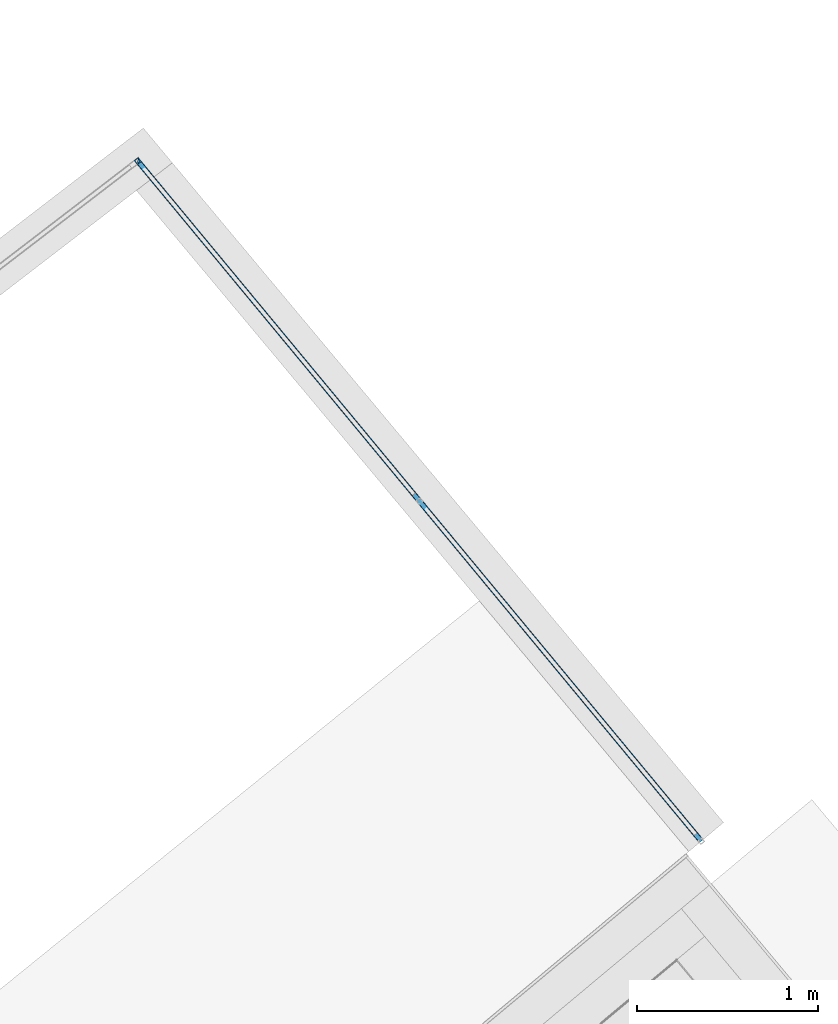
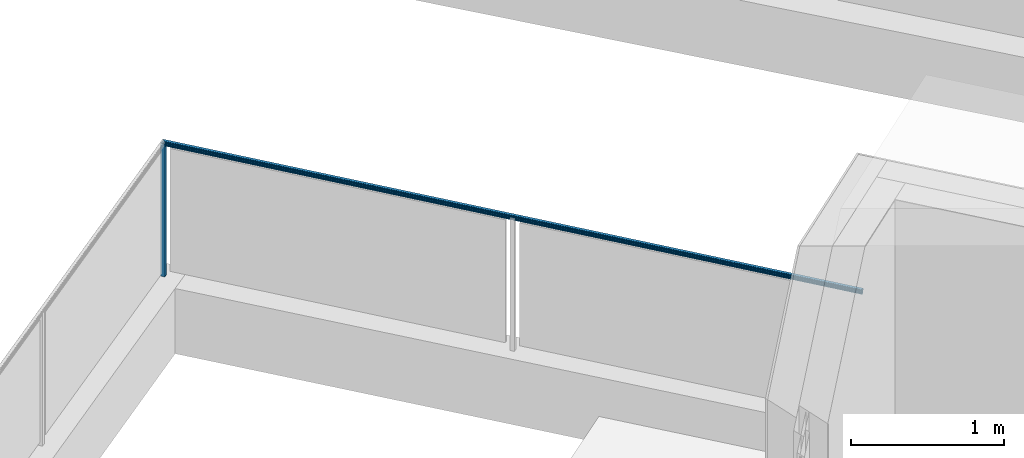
# One storey, part 52 of 67: 2 building element parts, 1 element without a shape of its own.
"""IFC4 building model written with IfcOpenShell, lengths in metres."""

import ifcopenshell
import ifcopenshell.guid

model = None  # the IFC model being written
_history = None  # IfcOwnerHistory: only IFC2X3 demands one
_inside = {}  # id of a spatial element -> (the spatial element, [elements in it])
_under = {}  # id of a project, library or spatial element -> (it, [spatial elements below it])
_declared = {}  # id of a project -> (the project, [libraries it declares])
_typed = {}  # id of a type object -> (the type object, [elements of that type])
_made_of = {}  # id of a material, layer set ... -> (it, [elements and type objects made of it])


def new_model(schema):
    """Start an empty IFC model of exactly this schema.

    Asked for "IFC4X3", IfcOpenShell would pick the latest addendum, in which some entities
    have other attributes; the version numbers below select the first issue.
    IFC2X3 requires an IfcOwnerHistory on every rooted entity: one is made here for all.
    """
    global model, _history
    if schema == "IFC4X3":
        model = ifcopenshell.file(schema_version=(4, 3, 0, 0))
    else:
        model = ifcopenshell.file(schema=schema)
    _inside.clear()
    _under.clear()
    _declared.clear()
    _typed.clear()
    _made_of.clear()
    _history = None
    if model.schema == "IFC2X3":
        org = make("IfcOrganization", Name="unknown")
        user = make(
            "IfcPersonAndOrganization",
            ThePerson=make("IfcPerson", FamilyName="unknown"),
            TheOrganization=org,
        )
        app = make(
            "IfcApplication",
            ApplicationDeveloper=org,
            Version="unknown",
            ApplicationFullName="unknown",
            ApplicationIdentifier="unknown",
        )
        _history = make(
            "IfcOwnerHistory",
            OwningUser=user,
            OwningApplication=app,
            ChangeAction="ADDED",
            CreationDate=0,
        )
    return model


def make(cls, **values):
    """One entity of the class cls with the attributes given. An attribute that is None is left unset."""
    return model.create_entity(
        cls, **{name: value for name, value in values.items() if value is not None}
    )


def entity(cls, *values):
    """Any entity or typed value of the class cls, its attributes in the order of the schema. None: left unset."""
    e = model.create_entity(cls)
    for i, value in enumerate(values):
        if value is not None:
            e[i] = value
    return e


def rooted(cls, **values):
    """An entity with a GlobalId (a new one), such as an element, a storey or a relation."""
    return make(cls, GlobalId=ifcopenshell.guid.new(), OwnerHistory=_history, **values)


def si_unit(unit_type, name, prefix=None):
    """IfcSIUnit, for example si_unit("LENGTHUNIT", "METRE", prefix="MILLI")."""
    return make("IfcSIUnit", UnitType=unit_type, Prefix=prefix, Name=name)


def converted_unit(unit_type, name, factor, base, dimensions=None, offset=None):
    """IfcConversionBasedUnit, such as the inch: factor (a typed value) times the base unit."""
    return make(
        "IfcConversionBasedUnit"
        if offset is None
        else "IfcConversionBasedUnitWithOffset",
        ConversionOffset=offset,
        Dimensions=None
        if dimensions is None
        else entity("IfcDimensionalExponents", *dimensions),
        UnitType=unit_type,
        Name=name,
        ConversionFactor=make(
            "IfcMeasureWithUnit", ValueComponent=factor, UnitComponent=base
        ),
    )


def derived_unit(unit_type, elements):
    """IfcDerivedUnit: a product of units, each with its exponent."""
    return make(
        "IfcDerivedUnit",
        Elements=[
            make("IfcDerivedUnitElement", Unit=unit, Exponent=power)
            for unit, power in elements
        ],
        UnitType=unit_type,
    )


def assignment(units):
    """IfcUnitAssignment: the units of a project."""
    return None if units is None else make("IfcUnitAssignment", Units=units)


def point(xyz):
    """IfcCartesianPoint."""
    return None if xyz is None else make("IfcCartesianPoint", Coordinates=xyz)


def direction(xyz):
    """IfcDirection."""
    return None if xyz is None else make("IfcDirection", DirectionRatios=xyz)


def frame(location, z_axis=None, x_axis=None):
    """IfcAxis2Placement3D, a coordinate frame: its origin and axes. An axis left out is left unset."""
    return make(
        "IfcAxis2Placement3D",
        Location=point(location),
        Axis=direction(z_axis),
        RefDirection=direction(x_axis),
    )


def origin_with_axes():
    """The frame at (0, 0, 0) with the z axis (0, 0, 1) and the x axis (1, 0, 0) written out."""
    return frame((0.0, 0.0, 0.0), z_axis=(0.0, 0.0, 1.0), x_axis=(1.0, 0.0, 0.0))


def place(relative_to, where):
    """IfcLocalPlacement: puts the frame where relative to a parent placement (None: the world)."""
    return make(
        "IfcLocalPlacement", PlacementRelTo=relative_to, RelativePlacement=where
    )


def context(
    kind, dimensions, precision=None, world=None, true_north=None, identifier=None
):
    """IfcGeometricRepresentationContext, for example the 3D "Model" context."""
    return make(
        "IfcGeometricRepresentationContext",
        ContextIdentifier=identifier,
        ContextType=kind,
        CoordinateSpaceDimension=dimensions,
        Precision=precision,
        WorldCoordinateSystem=world,
        TrueNorth=true_north,
    )


def subcontext(parent, identifier, kind, view, scale=None):
    """IfcGeometricRepresentationSubContext, for example "Body" below "Model"."""
    return make(
        "IfcGeometricRepresentationSubContext",
        ContextIdentifier=identifier,
        ContextType=kind,
        ParentContext=parent,
        TargetScale=scale,
        TargetView=view,
    )


def project(units=None, contexts=None):
    """IfcProject with its units and contexts."""
    return rooted(
        "IfcProject",
        Name="project",
        RepresentationContexts=contexts,
        UnitsInContext=assignment(units),
    )


def spatial(cls, under=None, at=None, **own):
    """A site, building, storey or space (cls), placed at a placement, below another one or the project."""
    s = rooted(cls, ObjectPlacement=at, **own)
    if under is not None:
        _under.setdefault(under.id(), (under, []))[1].append(s)
    return s


def point_list(points):
    """IfcCartesianPointList2D or 3D."""
    cls = (
        "IfcCartesianPointList2D" if len(points[0]) == 2 else "IfcCartesianPointList3D"
    )
    return make(cls, CoordList=points)


def polygons(points, faces, closed=None, point_numbers=None):
    """IfcPolygonalFaceSet: a face is its outer loop, then its inner loops; points numbered from 1."""
    made = []
    for loops in faces:
        if len(loops) == 1:
            made.append(make("IfcIndexedPolygonalFace", CoordIndex=loops[0]))
        else:
            made.append(
                make(
                    "IfcIndexedPolygonalFaceWithVoids",
                    CoordIndex=loops[0],
                    InnerCoordIndices=loops[1:],
                )
            )
    return make(
        "IfcPolygonalFaceSet",
        Coordinates=point_list(points),
        Closed=closed,
        Faces=made,
        PnIndex=point_numbers,
    )


def shape(context_of_items, identifier, shape_type, items):
    """IfcShapeRepresentation: the items that make up one representation, for example the "Body"."""
    return make(
        "IfcShapeRepresentation",
        ContextOfItems=context_of_items,
        RepresentationIdentifier=identifier,
        RepresentationType=shape_type,
        Items=items,
    )


def material(Name=None, Category=None):
    """IfcMaterial."""
    return make("IfcMaterial", Name=Name, Category=Category)


def made_of(thing, what):
    """Note that an element or type object is made of a material, layer set ...; save() writes the relation."""
    if what is not None:
        _made_of.setdefault(what.id(), (what, []))[1].append(thing)
    return thing


def type_object(cls, material=None, **own):
    """A type object (cls), such as IfcWallType, which elements share."""
    return made_of(rooted(cls, **own), material)


def element(
    cls,
    number,
    at=None,
    inside=None,
    cuts=None,
    type_object=None,
    material=None,
    context=None,
    identifier="Body",
    shape_type=None,
    held_by="IfcProductDefinitionShape",
    body=None,
    shapes=None,
    **own,
):
    """One element of the class cls, such as IfcWall. Its Tag is "e" and its number.

    at: its placement. inside: the storey or other place that contains it. cuts: it is an
    opening in that element (IfcRelVoidsElement). A single representation is given by context,
    identifier, shape_type and body (its items); several are given by shapes. held_by: the class
    of the entity that holds the representations. save() writes the other relations.
    """
    e = rooted(cls, Tag="e%d" % number, ObjectPlacement=at, **own)
    if body is not None:
        shapes = [shape(context, identifier, shape_type, body)]
    if shapes is not None:
        e.Representation = make(held_by, Representations=shapes)
    if inside is not None:
        _inside.setdefault(inside.id(), (inside, []))[1].append(e)
    if cuts is not None:
        rooted(
            "IfcRelVoidsElement", RelatingBuildingElement=cuts, RelatedOpeningElement=e
        )
    if type_object is not None:
        _typed.setdefault(type_object.id(), (type_object, []))[1].append(e)
    return made_of(e, material)


def aggregate(whole, parts):
    """IfcRelAggregates: a whole, such as a stair, and the parts it consists of."""
    return rooted("IfcRelAggregates", RelatingObject=whole, RelatedObjects=parts)


def save(model, path):
    """Write the relations noted so far, then the file.

    IfcRelAggregates (storeys below a building ...), IfcRelContainedInSpatialStructure (elements
    in a storey), IfcRelDefinesByType, IfcRelAssociatesMaterial and IfcRelDeclares: one each for
    every whole, place, type object, material and project.
    """
    for whole, parts in _under.values():
        aggregate(whole, parts)
    for where, things in _inside.values():
        rooted(
            "IfcRelContainedInSpatialStructure",
            RelatedElements=things,
            RelatingStructure=where,
        )
    for kind, things in _typed.values():
        rooted("IfcRelDefinesByType", RelatedObjects=things, RelatingType=kind)
    for what, things in _made_of.values():
        rooted("IfcRelAssociatesMaterial", RelatedObjects=things, RelatingMaterial=what)
    for by, libraries in _declared.values():
        rooted("IfcRelDeclares", RelatingContext=by, RelatedDefinitions=libraries)
    model.write(path)


model = new_model("IFC4")

# Units and contexts
model_context = context("Model", 3, precision=1e-05, world=origin_with_axes(), true_north=direction((0.0, 1.0)))
body_context = subcontext(model_context, "Body", "Model", "MODEL_VIEW")
ifc_project = project(units=[si_unit("LENGTHUNIT", "METRE"), si_unit("AREAUNIT", "SQUARE_METRE"), si_unit("VOLUMEUNIT", "CUBIC_METRE"), converted_unit("PLANEANGLEUNIT", "DEGREE", entity("IfcPlaneAngleMeasure", 0.0174532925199), si_unit("PLANEANGLEUNIT", "RADIAN"), dimensions=[0, 0, 0, 0, 0, 0, 0]), converted_unit("TIMEUNIT", "Year", entity("IfcTimeMeasure", 31556926.0), si_unit("TIMEUNIT", "SECOND"), dimensions=[0, 0, 1, 0, 0, 0, 0]), si_unit("MASSUNIT", "GRAM", prefix="KILO"), si_unit("THERMODYNAMICTEMPERATUREUNIT", "DEGREE_CELSIUS"), si_unit("LUMINOUSINTENSITYUNIT", "LUMEN"), si_unit("ENERGYUNIT", "JOULE", prefix="MEGA"), derived_unit("THERMALCONDUCTANCEUNIT", [(si_unit("POWERUNIT", "WATT"), 1), (si_unit("LENGTHUNIT", "METRE"), -1), (si_unit("THERMODYNAMICTEMPERATUREUNIT", "KELVIN"), -1)]), derived_unit("SPECIFICHEATCAPACITYUNIT", [(si_unit("ENERGYUNIT", "JOULE"), 1), (si_unit("MASSUNIT", "GRAM", prefix="KILO"), -1), (si_unit("THERMODYNAMICTEMPERATUREUNIT", "KELVIN"), -1)]), derived_unit("MASSDENSITYUNIT", [(si_unit("MASSUNIT", "GRAM", prefix="KILO"), 1), (si_unit("VOLUMEUNIT", "CUBIC_METRE"), -1)])], contexts=[model_context])

# Site, building, storey
site_placement = place(None, frame((-0.00153261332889, -0.00661245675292, 0.0), z_axis=(0.0, 0.0, 1.0), x_axis=(1.0, 0.0, 0.0)))
site = spatial("IfcSite", under=ifc_project, at=site_placement, Name="Site", CompositionType="ELEMENT")
building_placement = place(site_placement, origin_with_axes())
building = spatial("IfcBuilding", under=site, at=building_placement, Name="Building", CompositionType="ELEMENT")
storey_placement = place(building_placement, frame((0.0, 0.0, -0.22), z_axis=(0.0, 0.0, 1.0), x_axis=(1.0, 0.0, 0.0)))
storey = spatial("IfcBuildingStorey", under=building, at=storey_placement, Name="EG", CompositionType="ELEMENT", Elevation=-0.22)

# Railing, building element parts
railing_type = type_object("IfcRailingType", Name="Geländerart", PredefinedType="NOTDEFINED")
railing_placement = place(storey_placement, frame((0.180685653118, 26.4249004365, 0.523948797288), z_axis=(0.0, 0.0, 1.0), x_axis=(1.0, 0.0, 0.0)))
railing = element("IfcRailing", 1, at=railing_placement, inside=storey, type_object=railing_type, Name="Geländer - 001", PredefinedType="NOTDEFINED")
ifc_material = material(Name="Aluminium")
building_element_part_1_placement = place(railing_placement, origin_with_axes())
building_element_part_1 = element("IfcBuildingElementPart", 2, at=building_element_part_1_placement, material=ifc_material, Name="Aluminium", PredefinedType="NOTDEFINED", context=body_context, shape_type="Tessellation", body=[
    polygons([(1.75391347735, 7.7947920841, 0.0), (1.73565892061, 7.81859904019, 0.0), (1.73565892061, 7.81859904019, 1.06), (1.75391347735, 7.7947920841, 1.06), (1.73010652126, 7.77653752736, 0.0), (1.71185196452, 7.80034448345, 0.0), (1.74690322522, 7.79571748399, 0.0), (1.73473352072, 7.81158878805, 0.0), (1.71886221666, 7.79941908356, 0.0), (1.73103192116, 7.7835477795, 0.0), (1.71185196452, 7.80034448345, 1.06), (1.73010652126, 7.77653752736, 1.06), (1.74690322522, 7.79571748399, 1.06), (1.73103192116, 7.7835477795, 1.06), (1.71886221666, 7.79941908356, 1.06), (1.73473352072, 7.81158878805, 1.06)], [[[1, 2, 3, 4]], [[1, 5, 6, 2], [7, 8, 9, 10]], [[2, 6, 11, 3]], [[4, 3, 11, 12], [13, 14, 15, 16]], [[5, 1, 4, 12]], [[6, 5, 12, 11]], [[8, 7, 13, 16]], [[9, 8, 16, 15]], [[10, 9, 15, 14]], [[7, 10, 14, 13]]], closed=True),
])
building_element_part_2_placement = place(railing_placement, origin_with_axes())
building_element_part_2 = element("IfcBuildingElementPart", 3, at=building_element_part_2_placement, material=ifc_material, Name="Aluminium", PredefinedType="NOTDEFINED", context=body_context, shape_type="Tessellation", body=[
    polygons([(1.73130497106, 7.78358685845, 1.07636363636), (1.73126837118, 7.78326252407, 1.07634109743), (4.83338371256, 4.03920104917, 1.07634109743), (4.83356475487, 4.03935105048, 1.07636363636), (1.73130497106, 7.78358685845, 1.07818181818), (1.73131458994, 7.78367209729, 1.07820551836), (1.73182788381, 7.78822071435, 1.0792391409), (1.73234860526, 7.79283515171, 1.07983921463), (1.73287279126, 7.7974802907, 1.08000117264), (1.73288272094, 7.79756828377, 1.08), (1.73289265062, 7.79765627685, 1.08000117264), (1.73341683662, 7.80230141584, 1.07983921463), (1.73393755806, 7.8069158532, 1.0792391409), (1.73445085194, 7.81146447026, 1.07820551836), (1.73446047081, 7.81154970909, 1.07818181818), (1.73446047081, 7.81154970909, 1.07636363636), (1.7344970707, 7.81187404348, 1.07634109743), (1.73463260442, 7.81307509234, 1.0761115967), (1.7347619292, 7.81422111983, 1.07565956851), (1.73488111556, 7.81527730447, 1.07499874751), (1.73498654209, 7.81621155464, 1.0741492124), (1.73507500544, 7.81699548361, 1.07313677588), (1.73514381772, 7.81760527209, 1.07199220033), (1.73519088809, 7.81802239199, 1.07075026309), (1.73521478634, 7.81823416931, 1.06944869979), (1.73521478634, 7.81823416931, 1.06812705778), (1.73519088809, 7.81802239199, 1.06682549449), (1.73514381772, 7.81760527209, 1.06558355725), (1.73507500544, 7.81699548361, 1.06443898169), (1.73498654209, 7.81621155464, 1.06342654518), (1.73488111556, 7.81527730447, 1.06257701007), (1.7347619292, 7.81422111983, 1.06191618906), (1.73463260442, 7.81307509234, 1.06146416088), (1.7344970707, 7.81187404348, 1.06123466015), (1.73446047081, 7.81154970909, 1.06121212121), (1.73446047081, 7.81154970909, 1.05818181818), (1.73443572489, 7.81133042, 1.05810011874), (1.73432044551, 7.8103088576, 1.05758389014), (1.73421625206, 7.80938553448, 1.05688326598), (1.7341263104, 7.80858850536, 1.05601953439), (1.73405335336, 7.80794198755, 1.05501893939), (1.73399959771, 7.80746562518, 1.05391188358), (1.73396667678, 7.80717389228, 1.05273200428), (1.73395559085, 7.80707565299, 1.05151515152), (1.73396667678, 7.80717389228, 1.05029829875), (1.73399959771, 7.80746562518, 1.04911841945), (1.73405335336, 7.80794198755, 1.04801136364), (1.7341263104, 7.80858850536, 1.04701076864), (1.73421625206, 7.80938553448, 1.04614703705), (1.73432044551, 7.8103088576, 1.04544641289), (1.73443572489, 7.81133042, 1.04493018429), (1.73446047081, 7.81154970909, 1.04484848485), (1.73446047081, 7.81154970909, 1.04), (1.73130497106, 7.78358685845, 1.04), (1.73130497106, 7.78358685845, 1.04484848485), (1.73132971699, 7.78380614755, 1.04493018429), (1.73144499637, 7.78482770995, 1.04544641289), (1.73154918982, 7.78575103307, 1.04614703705), (1.73163913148, 7.78654806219, 1.04701076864), (1.73171208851, 7.78719457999, 1.04801136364), (1.73176584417, 7.78767094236, 1.04911841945), (1.7317987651, 7.78796267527, 1.05029829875), (1.73180985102, 7.78806091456, 1.05151515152), (1.7317987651, 7.78796267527, 1.05273200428), (1.73176584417, 7.78767094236, 1.05391188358), (1.73171208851, 7.78719457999, 1.05501893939), (1.73163913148, 7.78654806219, 1.05601953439), (1.73154918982, 7.78575103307, 1.05688326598), (1.73144499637, 7.78482770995, 1.05758389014), (1.73132971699, 7.78380614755, 1.05810011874), (1.73130497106, 7.78358685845, 1.05818181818), (1.73130497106, 7.78358685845, 1.06121212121), (1.73126837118, 7.78326252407, 1.06123466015), (1.73113283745, 7.7820614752, 1.06146416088), (1.73100351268, 7.78091544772, 1.06191618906), (1.73088432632, 7.77985926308, 1.06257701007), (1.73077889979, 7.77892501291, 1.06342654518), (1.73069043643, 7.77814108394, 1.06443898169), (1.73062162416, 7.77753129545, 1.06558355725), (1.73057455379, 7.77711417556, 1.06682549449), (1.73055065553, 7.77690239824, 1.06812705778), (1.73055065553, 7.77690239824, 1.06944869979), (1.73057455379, 7.77711417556, 1.07075026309), (1.73062162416, 7.77753129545, 1.07199220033), (1.73069043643, 7.77814108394, 1.07313677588), (1.73077889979, 7.77892501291, 1.0741492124), (1.73088432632, 7.77985926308, 1.07499874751), (1.73100351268, 7.78091544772, 1.07565956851), (1.73113283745, 7.7820614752, 1.0761115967), (4.83271329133, 4.03864557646, 1.0761115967), (4.83207358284, 4.03811555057, 1.07565956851), (4.83148402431, 4.03762707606, 1.07499874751), (4.83096252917, 4.037194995, 1.0741492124), (4.83052494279, 4.03683243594, 1.07313677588), (4.83018456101, 4.03655041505, 1.07199220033), (4.82995172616, 4.0363575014, 1.07075026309), (4.82983351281, 4.03625955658, 1.06944869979), (4.82983351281, 4.03625955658, 1.06812705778), (4.82995172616, 4.0363575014, 1.06682549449), (4.83018456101, 4.03655041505, 1.06558355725), (4.83052494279, 4.03683243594, 1.06443898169), (4.83096252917, 4.037194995, 1.06342654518), (4.83148402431, 4.03762707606, 1.06257701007), (4.83207358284, 4.03811555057, 1.06191618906), (4.83271329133, 4.03864557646, 1.06146416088), (4.83338371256, 4.03920104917, 1.06123466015), (4.83356475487, 4.03935105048, 1.06121212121), (4.83356475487, 4.03935105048, 1.05818181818), (4.83368716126, 4.03945246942, 1.05810011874), (4.83425739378, 4.0399249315, 1.05758389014), (4.83477278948, 4.04035195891, 1.05688326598), (4.83521768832, 4.04072057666, 1.05601953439), (4.83557857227, 4.04101958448, 1.05501893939), (4.83584447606, 4.04123989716, 1.05391188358), (4.83600732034, 4.04137482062, 1.05273200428), (4.83606215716, 4.04142025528, 1.05151515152), (4.83600732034, 4.04137482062, 1.05029829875), (4.83584447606, 4.04123989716, 1.04911841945), (4.83557857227, 4.04101958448, 1.04801136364), (4.83521768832, 4.04072057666, 1.04701076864), (4.83477278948, 4.04035195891, 1.04614703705), (4.83425739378, 4.0399249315, 1.04544641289), (4.83368716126, 4.03945246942, 1.04493018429), (4.83356475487, 4.03935105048, 1.04484848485), (4.83356475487, 4.03935105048, 1.04), (4.84917351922, 4.05228358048, 1.04), (4.84917351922, 4.05228358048, 1.04484848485), (4.84905111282, 4.05218216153, 1.04493018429), (4.8484808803, 4.05170969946, 1.04544641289), (4.8479654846, 4.05128267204, 1.04614703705), (4.84752058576, 4.0509140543, 1.04701076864), (4.84715970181, 4.05061504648, 1.04801136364), (4.84689379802, 4.0503947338, 1.04911841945), (4.84673095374, 4.05025981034, 1.05029829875), (4.84667611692, 4.05021437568, 1.05151515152), (4.84673095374, 4.05025981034, 1.05273200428), (4.84689379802, 4.0503947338, 1.05391188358), (4.84715970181, 4.05061504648, 1.05501893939), (4.84752058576, 4.0509140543, 1.05601953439), (4.8479654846, 4.05128267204, 1.05688326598), (4.8484808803, 4.05170969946, 1.05758389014), (4.84905111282, 4.05218216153, 1.05810011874), (4.84917351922, 4.05228358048, 1.05818181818), (4.84917351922, 4.05228358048, 1.06121212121), (4.84935456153, 4.05243358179, 1.06123466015), (4.85002498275, 4.0529890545, 1.06146416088), (4.85066469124, 4.05351908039, 1.06191618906), (4.85125424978, 4.0540075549, 1.06257701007), (4.85177574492, 4.05443963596, 1.06342654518), (4.85221333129, 4.05480219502, 1.06443898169), (4.85255371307, 4.05508421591, 1.06558355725), (4.85278654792, 4.05527712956, 1.06682549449), (4.85290476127, 4.05537507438, 1.06812705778), (4.85290476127, 4.05537507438, 1.06944869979), (4.85278654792, 4.05527712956, 1.07075026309), (4.85255371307, 4.05508421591, 1.07199220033), (4.85221333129, 4.05480219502, 1.07313677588), (4.85177574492, 4.05443963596, 1.0741492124), (4.85125424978, 4.0540075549, 1.07499874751), (4.85066469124, 4.05351908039, 1.07565956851), (4.85002498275, 4.0529890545, 1.0761115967), (4.84935456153, 4.05243358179, 1.07634109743), (4.84917351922, 4.05228358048, 1.07636363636), (4.84917351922, 4.05228358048, 1.07818181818), (4.8491259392, 4.0522441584, 1.07820551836), (4.84658691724, 4.05014046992, 1.0792391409), (4.84401115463, 4.04800634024, 1.07983921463), (4.84141825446, 4.04585801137, 1.08000117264), (4.84136913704, 4.04581731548, 1.08), (4.84132001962, 4.04577661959, 1.08000117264), (4.83872711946, 4.04362829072, 1.07983921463), (4.83615135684, 4.04149416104, 1.0792391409), (4.83361233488, 4.03939047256, 1.07820551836), (4.83356475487, 4.03935105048, 1.07818181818)], [[[1, 2, 3, 4]], [[1, 5, 6, 7, 8, 9, 10, 11, 12, 13, 14, 15, 16, 17, 18, 19, 20, 21, 22, 23, 24, 25, 26, 27, 28, 29, 30, 31, 32, 33, 34, 35, 36, 37, 38, 39, 40, 41, 42, 43, 44, 45, 46, 47, 48, 49, 50, 51, 52, 53, 54, 55, 56, 57, 58, 59, 60, 61, 62, 63, 64, 65, 66, 67, 68, 69, 70, 71, 72, 73, 74, 75, 76, 77, 78, 79, 80, 81, 82, 83, 84, 85, 86, 87, 88, 89, 2]], [[2, 89, 90, 3]], [[4, 3, 90, 91, 92, 93, 94, 95, 96, 97, 98, 99, 100, 101, 102, 103, 104, 105, 106, 107, 108, 109, 110, 111, 112, 113, 114, 115, 116, 117, 118, 119, 120, 121, 122, 123, 124, 125, 126, 127, 128, 129, 130, 131, 132, 133, 134, 135, 136, 137, 138, 139, 140, 141, 142, 143, 144, 145, 146, 147, 148, 149, 150, 151, 152, 153, 154, 155, 156, 157, 158, 159, 160, 161, 162, 163, 164, 165, 166, 167, 168, 169, 170, 171, 172, 173, 174]], [[5, 1, 4, 174]], [[6, 5, 174, 173]], [[7, 6, 173, 172]], [[8, 7, 172, 171]], [[9, 8, 171, 170]], [[10, 9, 170, 169]], [[11, 10, 169, 168]], [[12, 11, 168, 167]], [[13, 12, 167, 166]], [[14, 13, 166, 165]], [[15, 14, 165, 164]], [[16, 15, 164, 163]], [[17, 16, 163, 162]], [[18, 17, 162, 161]], [[19, 18, 161, 160]], [[20, 19, 160, 159]], [[21, 20, 159, 158]], [[22, 21, 158, 157]], [[23, 22, 157, 156]], [[24, 23, 156, 155]], [[25, 24, 155, 154]], [[26, 25, 154, 153]], [[27, 26, 153, 152]], [[28, 27, 152, 151]], [[29, 28, 151, 150]], [[30, 29, 150, 149]], [[31, 30, 149, 148]], [[32, 31, 148, 147]], [[33, 32, 147, 146]], [[34, 33, 146, 145]], [[35, 34, 145, 144]], [[36, 35, 144, 143]], [[37, 36, 143, 142]], [[38, 37, 142, 141]], [[39, 38, 141, 140]], [[40, 39, 140, 139]], [[41, 40, 139, 138]], [[42, 41, 138, 137]], [[43, 42, 137, 136]], [[44, 43, 136, 135]], [[45, 44, 135, 134]], [[46, 45, 134, 133]], [[47, 46, 133, 132]], [[48, 47, 132, 131]], [[49, 48, 131, 130]], [[50, 49, 130, 129]], [[51, 50, 129, 128]], [[52, 51, 128, 127]], [[53, 52, 127, 126]], [[54, 53, 126, 125]], [[55, 54, 125, 124]], [[56, 55, 124, 123]], [[57, 56, 123, 122]], [[58, 57, 122, 121]], [[59, 58, 121, 120]], [[60, 59, 120, 119]], [[61, 60, 119, 118]], [[62, 61, 118, 117]], [[63, 62, 117, 116]], [[64, 63, 116, 115]], [[65, 64, 115, 114]], [[66, 65, 114, 113]], [[67, 66, 113, 112]], [[68, 67, 112, 111]], [[69, 68, 111, 110]], [[70, 69, 110, 109]], [[71, 70, 109, 108]], [[72, 71, 108, 107]], [[73, 72, 107, 106]], [[74, 73, 106, 105]], [[75, 74, 105, 104]], [[76, 75, 104, 103]], [[77, 76, 103, 102]], [[78, 77, 102, 101]], [[79, 78, 101, 100]], [[80, 79, 100, 99]], [[81, 80, 99, 98]], [[82, 81, 98, 97]], [[83, 82, 97, 96]], [[84, 83, 96, 95]], [[85, 84, 95, 94]], [[86, 85, 94, 93]], [[87, 86, 93, 92]], [[88, 87, 92, 91]], [[89, 88, 91, 90]]], closed=True),
])
aggregate(railing, [building_element_part_1, building_element_part_2])

save(model, "model.ifc")
